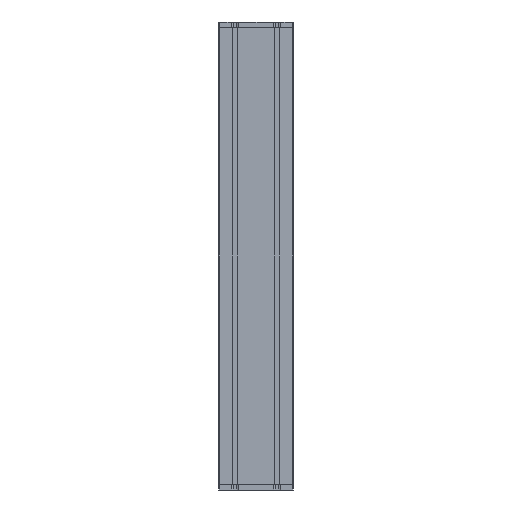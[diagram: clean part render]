
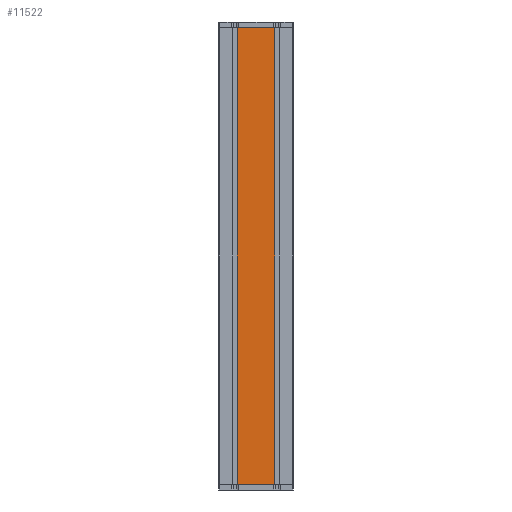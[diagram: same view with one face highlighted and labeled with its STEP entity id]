
A CAD part, front view. The second image highlights one B-rep face of the part: STEP entity #11522.
In plain terms, the highlighted planar face has unit normal (0, -1, 0).
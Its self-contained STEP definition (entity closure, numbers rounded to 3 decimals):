
#336 = LINE ( 'NONE', #7727, #6509 ) ;
#374 = LINE ( 'NONE', #678, #3092 ) ;
#465 = VECTOR ( 'NONE', #4059, 1000. ) ;
#678 = CARTESIAN_POINT ( 'NONE',  ( -40., 0., 488. ) ) ;
#1124 = DIRECTION ( 'NONE',  ( 0., 1., 0. ) ) ;
#1304 = CARTESIAN_POINT ( 'NONE',  ( -40., 0., -488. ) ) ;
#1344 = EDGE_CURVE ( 'NONE', #4806, #2123, #6764, .T. ) ;
#2123 = VERTEX_POINT ( 'NONE', #3278 ) ;
#2549 = AXIS2_PLACEMENT_3D ( 'NONE', #8300, #1124, #5728 ) ;
#3092 = VECTOR ( 'NONE', #7886, 1000. ) ;
#3278 = CARTESIAN_POINT ( 'NONE',  ( 40., 0., -488. ) ) ;
#3453 = CARTESIAN_POINT ( 'NONE',  ( 40., 0., 488. ) ) ;
#4031 = VERTEX_POINT ( 'NONE', #3453 ) ;
#4059 = DIRECTION ( 'NONE',  ( 0., 0., -1. ) ) ;
#4167 = CARTESIAN_POINT ( 'NONE',  ( -40., 0., -488. ) ) ;
#4796 = PLANE ( 'NONE',  #2549 ) ;
#4806 = VERTEX_POINT ( 'NONE', #1304 ) ;
#5728 = DIRECTION ( 'NONE',  ( 0., 0., 1. ) ) ;
#6087 = ORIENTED_EDGE ( 'NONE', *, *, #1344, .T. ) ;
#6509 = VECTOR ( 'NONE', #6653, 1000. ) ;
#6636 = ORIENTED_EDGE ( 'NONE', *, *, #8308, .F. ) ;
#6653 = DIRECTION ( 'NONE',  ( 1., 0., 0. ) ) ;
#6764 = LINE ( 'NONE', #4167, #10802 ) ;
#6780 = EDGE_LOOP ( 'NONE', ( #6087, #9806, #6636, #8035 ) ) ;
#7727 = CARTESIAN_POINT ( 'NONE',  ( -40., 0., 488. ) ) ;
#7886 = DIRECTION ( 'NONE',  ( 0., 0., -1. ) ) ;
#8035 = ORIENTED_EDGE ( 'NONE', *, *, #8712, .T. ) ;
#8300 = CARTESIAN_POINT ( 'NONE',  ( -40., 0., 488. ) ) ;
#8308 = EDGE_CURVE ( 'NONE', #10264, #4031, #336, .T. ) ;
#8627 = CARTESIAN_POINT ( 'NONE',  ( 40., 0., 488. ) ) ;
#8712 = EDGE_CURVE ( 'NONE', #10264, #4806, #374, .T. ) ;
#9112 = CARTESIAN_POINT ( 'NONE',  ( -40., 0., 488. ) ) ;
#9330 = LINE ( 'NONE', #8627, #465 ) ;
#9806 = ORIENTED_EDGE ( 'NONE', *, *, #10414, .F. ) ;
#10264 = VERTEX_POINT ( 'NONE', #9112 ) ;
#10414 = EDGE_CURVE ( 'NONE', #4031, #2123, #9330, .T. ) ;
#10802 = VECTOR ( 'NONE', #11381, 1000. ) ;
#11236 = FACE_OUTER_BOUND ( 'NONE', #6780, .T. ) ;
#11381 = DIRECTION ( 'NONE',  ( 1., 0., 0. ) ) ;
#11522 = ADVANCED_FACE ( 'PLANAR_27', ( #11236 ), #4796, .F. ) ;
